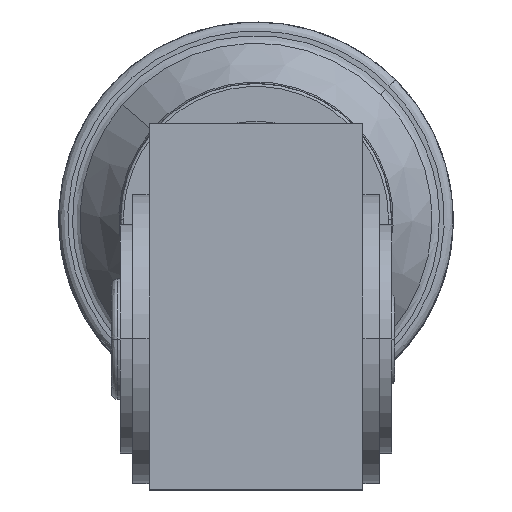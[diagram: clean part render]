
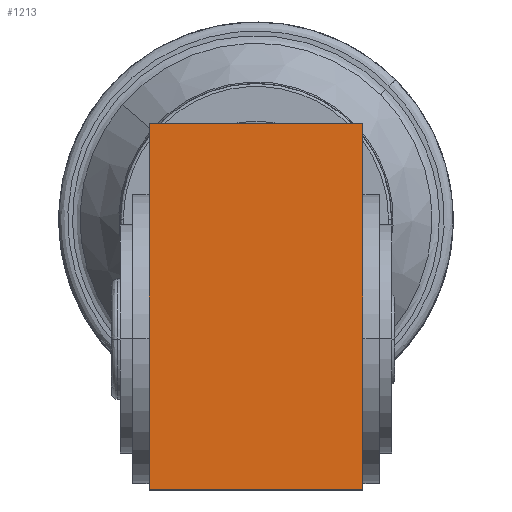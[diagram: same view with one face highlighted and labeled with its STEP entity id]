
A CAD part, top view. The second image highlights one B-rep face of the part: STEP entity #1213.
In plain terms, the highlighted planar face has unit normal (0, 0, 1).
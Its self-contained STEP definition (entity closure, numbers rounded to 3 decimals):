
#1067 = EDGE_CURVE ( 'NONE', #13572, #13577, #6451, .T. ) ;
#1106 = EDGE_CURVE ( 'NONE', #13577, #13515, #6524, .T. ) ;
#1119 = EDGE_CURVE ( 'NONE', #13558, #13572, #6496, .T. ) ;
#1172 = EDGE_CURVE ( 'NONE', #13515, #13558, #6560, .T. ) ;
#1213 = ADVANCED_FACE ( 'NONE', ( #6604 ), #10245, .T. ) ;
#2314 = ORIENTED_EDGE ( 'NONE', *, *, #1067, .T. ) ;
#2316 = ORIENTED_EDGE ( 'NONE', *, *, #1172, .T. ) ;
#2360 = ORIENTED_EDGE ( 'NONE', *, *, #1106, .T. ) ;
#2364 = ORIENTED_EDGE ( 'NONE', *, *, #1119, .T. ) ;
#3524 = EDGE_LOOP ( 'NONE', ( #2314, #2360, #2316, #2364 ) ) ;
#6451 = LINE ( 'NONE', #8128, #6460 ) ;
#6460 = VECTOR ( 'NONE', #8154, 1000. ) ;
#6495 = VECTOR ( 'NONE', #9869, 1000. ) ;
#6496 = LINE ( 'NONE', #9866, #6495 ) ;
#6501 = VECTOR ( 'NONE', #8303, 1000. ) ;
#6524 = LINE ( 'NONE', #8271, #6501 ) ;
#6560 = LINE ( 'NONE', #10017, #6584 ) ;
#6584 = VECTOR ( 'NONE', #10043, 1000. ) ;
#6604 = FACE_OUTER_BOUND ( 'NONE', #3524, .T. ) ;
#8128 = CARTESIAN_POINT ( 'NONE',  ( 0., 71.5, 50. ) ) ;
#8154 = DIRECTION ( 'NONE',  ( -1., 0., 0. ) ) ;
#8271 = CARTESIAN_POINT ( 'NONE',  ( -35.5, 71.5, 50. ) ) ;
#8303 = DIRECTION ( 'NONE',  ( 0., -1., 0. ) ) ;
#9537 = AXIS2_PLACEMENT_3D ( 'NONE', #10232, #10216, #10230 ) ;
#9866 = CARTESIAN_POINT ( 'NONE',  ( 35.5, 71.5, 50. ) ) ;
#9869 = DIRECTION ( 'NONE',  ( 0., 1., 0. ) ) ;
#10017 = CARTESIAN_POINT ( 'NONE',  ( 0., -50., 50. ) ) ;
#10043 = DIRECTION ( 'NONE',  ( 1., 0., 0. ) ) ;
#10216 = DIRECTION ( 'NONE',  ( 0., 0., 1. ) ) ;
#10230 = DIRECTION ( 'NONE',  ( 0., -1., 0. ) ) ;
#10232 = CARTESIAN_POINT ( 'NONE',  ( 0., 71.5, 50. ) ) ;
#10245 = PLANE ( 'NONE',  #9537 ) ;
#11597 = CARTESIAN_POINT ( 'NONE',  ( -35.5, -50., 50. ) ) ;
#11672 = CARTESIAN_POINT ( 'NONE',  ( 35.5, -50., 50. ) ) ;
#11673 = CARTESIAN_POINT ( 'NONE',  ( 35.5, 71.5, 50. ) ) ;
#11697 = CARTESIAN_POINT ( 'NONE',  ( -35.5, 71.5, 50. ) ) ;
#13515 = VERTEX_POINT ( 'NONE', #11597 ) ;
#13558 = VERTEX_POINT ( 'NONE', #11672 ) ;
#13572 = VERTEX_POINT ( 'NONE', #11673 ) ;
#13577 = VERTEX_POINT ( 'NONE', #11697 ) ;
